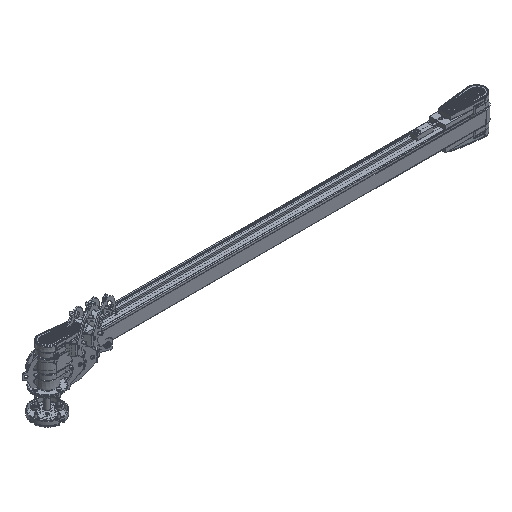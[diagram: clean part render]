
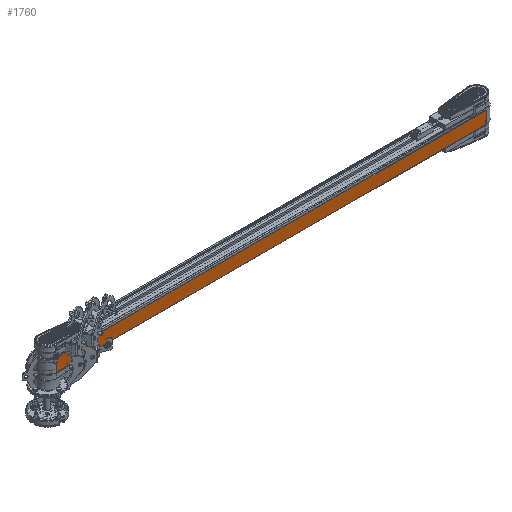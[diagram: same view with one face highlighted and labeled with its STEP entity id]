
A CAD part, isometric view. The second image highlights one B-rep face of the part: STEP entity #1760.
In plain terms, the highlighted planar face has unit normal (0, -1, 0).
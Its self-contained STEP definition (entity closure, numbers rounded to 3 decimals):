
#1266 = LINE ( 'NONE', #21330, #29263 ) ;
#1760 = ADVANCED_FACE ( 'NONE', ( #48515 ), #29294, .F. ) ;
#1852 = DIRECTION ( 'NONE',  ( 0., 0., -1. ) ) ;
#1926 = AXIS2_PLACEMENT_3D ( 'NONE', #29720, #68546, #9264 ) ;
#2900 = EDGE_CURVE ( 'NONE', #65165, #76730, #1266, .T. ) ;
#3747 = LINE ( 'NONE', #10561, #16999 ) ;
#9264 = DIRECTION ( 'NONE',  ( 0., 0., 1. ) ) ;
#9371 = DIRECTION ( 'NONE',  ( 0., 0., -1. ) ) ;
#9784 = EDGE_CURVE ( 'NONE', #65165, #49471, #50209, .T. ) ;
#10561 = CARTESIAN_POINT ( 'NONE',  ( -600., -27., -17.5 ) ) ;
#15109 = VECTOR ( 'NONE', #22493, 1000. ) ;
#16999 = VECTOR ( 'NONE', #54955, 1000. ) ;
#17775 = VECTOR ( 'NONE', #1852, 1000. ) ;
#19833 = EDGE_LOOP ( 'NONE', ( #46439, #32460, #45777, #19867 ) ) ;
#19867 = ORIENTED_EDGE ( 'NONE', *, *, #2900, .T. ) ;
#21330 = CARTESIAN_POINT ( 'NONE',  ( -600., -27., 17.5 ) ) ;
#22493 = DIRECTION ( 'NONE',  ( 1., 0., 0. ) ) ;
#29263 = VECTOR ( 'NONE', #9371, 1000. ) ;
#29294 = PLANE ( 'NONE',  #1926 ) ;
#29720 = CARTESIAN_POINT ( 'NONE',  ( -600., -27., 17.5 ) ) ;
#32460 = ORIENTED_EDGE ( 'NONE', *, *, #61059, .F. ) ;
#42375 = CARTESIAN_POINT ( 'NONE',  ( 600., -27., 17.5 ) ) ;
#43085 = EDGE_CURVE ( 'NONE', #76730, #77446, #3747, .T. ) ;
#45777 = ORIENTED_EDGE ( 'NONE', *, *, #9784, .F. ) ;
#46439 = ORIENTED_EDGE ( 'NONE', *, *, #43085, .T. ) ;
#48515 = FACE_OUTER_BOUND ( 'NONE', #19833, .T. ) ;
#49471 = VERTEX_POINT ( 'NONE', #56860 ) ;
#50209 = LINE ( 'NONE', #75370, #15109 ) ;
#50630 = CARTESIAN_POINT ( 'NONE',  ( -600., -27., -17.5 ) ) ;
#54955 = DIRECTION ( 'NONE',  ( 1., 0., 0. ) ) ;
#56860 = CARTESIAN_POINT ( 'NONE',  ( 600., -27., 17.5 ) ) ;
#61059 = EDGE_CURVE ( 'NONE', #49471, #77446, #67117, .T. ) ;
#63779 = CARTESIAN_POINT ( 'NONE',  ( -600., -27., 17.5 ) ) ;
#65165 = VERTEX_POINT ( 'NONE', #63779 ) ;
#67117 = LINE ( 'NONE', #42375, #17775 ) ;
#68546 = DIRECTION ( 'NONE',  ( 0., 1., 0. ) ) ;
#75370 = CARTESIAN_POINT ( 'NONE',  ( -600., -27., 17.5 ) ) ;
#76730 = VERTEX_POINT ( 'NONE', #50630 ) ;
#77446 = VERTEX_POINT ( 'NONE', #79033 ) ;
#79033 = CARTESIAN_POINT ( 'NONE',  ( 600., -27., -17.5 ) ) ;
